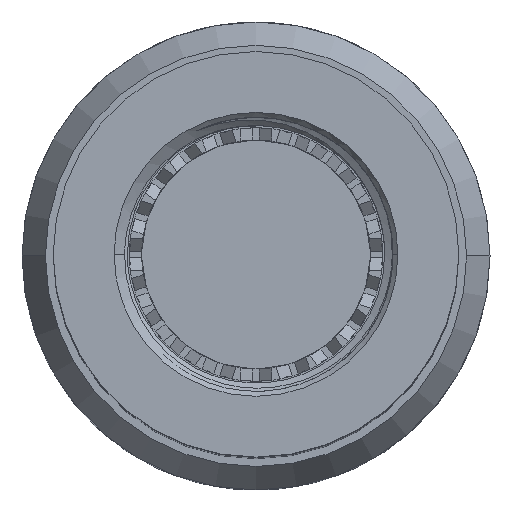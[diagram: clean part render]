
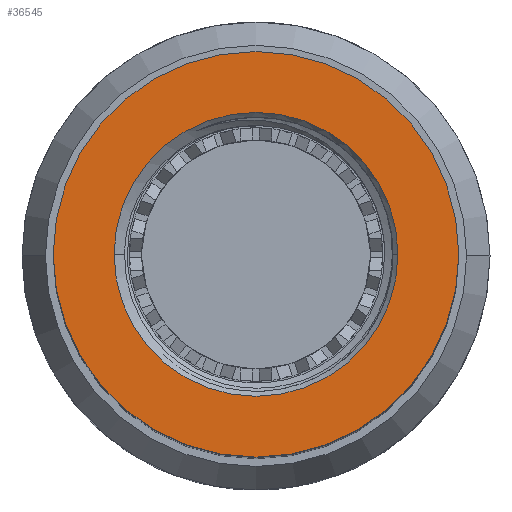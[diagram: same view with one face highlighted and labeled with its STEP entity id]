
A CAD part, top view. The second image highlights one B-rep face of the part: STEP entity #36545.
In plain terms, the highlighted planar face has unit normal (0, 0, 1).
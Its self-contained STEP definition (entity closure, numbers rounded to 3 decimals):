
#1039 = CARTESIAN_POINT ( 'NONE',  ( 0., 0., 5.664 ) ) ;
#1129 = CARTESIAN_POINT ( 'NONE',  ( 0., 0., 5.664 ) ) ;
#2233 = DIRECTION ( 'NONE',  ( 1., 0., 0. ) ) ;
#4090 = AXIS2_PLACEMENT_3D ( 'NONE', #1129, #46799, #10147 ) ;
#4928 = DIRECTION ( 'NONE',  ( 0., 0., -1. ) ) ;
#4938 = VERTEX_POINT ( 'NONE', #11486 ) ;
#5456 = DIRECTION ( 'NONE',  ( -1., 0., 0. ) ) ;
#5727 = AXIS2_PLACEMENT_3D ( 'NONE', #1039, #15153, #2233 ) ;
#7429 = CARTESIAN_POINT ( 'NONE',  ( -9.246, 0., 5.664 ) ) ;
#9196 = EDGE_CURVE ( 'NONE', #4938, #34971, #45339, .T. ) ;
#9236 = EDGE_LOOP ( 'NONE', ( #20604, #54961 ) ) ;
#10147 = DIRECTION ( 'NONE',  ( 1., 0., 0. ) ) ;
#11486 = CARTESIAN_POINT ( 'NONE',  ( -13.208, 0., 5.664 ) ) ;
#11896 = CARTESIAN_POINT ( 'NONE',  ( 0., 0., 5.664 ) ) ;
#12966 = EDGE_CURVE ( 'NONE', #34971, #4938, #36556, .T. ) ;
#14240 = DIRECTION ( 'NONE',  ( 1., 0., 0. ) ) ;
#15153 = DIRECTION ( 'NONE',  ( 0., 0., -1. ) ) ;
#16744 = ORIENTED_EDGE ( 'NONE', *, *, #28366, .T. ) ;
#17095 = AXIS2_PLACEMENT_3D ( 'NONE', #54211, #31322, #5456 ) ;
#20604 = ORIENTED_EDGE ( 'NONE', *, *, #12966, .F. ) ;
#22248 = CARTESIAN_POINT ( 'NONE',  ( 13.208, 0., 5.664 ) ) ;
#25734 = DIRECTION ( 'NONE',  ( 0., 0., -1. ) ) ;
#27150 = ORIENTED_EDGE ( 'NONE', *, *, #40733, .T. ) ;
#28366 = EDGE_CURVE ( 'NONE', #28496, #54376, #47956, .T. ) ;
#28496 = VERTEX_POINT ( 'NONE', #7429 ) ;
#31322 = DIRECTION ( 'NONE',  ( 0., 0., 1. ) ) ;
#33013 = DIRECTION ( 'NONE',  ( 1., 0., 0. ) ) ;
#34971 = VERTEX_POINT ( 'NONE', #22248 ) ;
#35826 = PLANE ( 'NONE',  #17095 ) ;
#36545 = ADVANCED_FACE ( 'NONE', ( #40333, #58414 ), #35826, .T. ) ;
#36556 = CIRCLE ( 'NONE', #58663, 13.208 ) ;
#38436 = EDGE_LOOP ( 'NONE', ( #27150, #16744 ) ) ;
#40333 = FACE_BOUND ( 'NONE', #38436, .T. ) ;
#40733 = EDGE_CURVE ( 'NONE', #54376, #28496, #56615, .T. ) ;
#44572 = CARTESIAN_POINT ( 'NONE',  ( 9.246, 0., 5.664 ) ) ;
#45339 = CIRCLE ( 'NONE', #4090, 13.208 ) ;
#46088 = CARTESIAN_POINT ( 'NONE',  ( 0., 0., 5.664 ) ) ;
#46799 = DIRECTION ( 'NONE',  ( 0., 0., -1. ) ) ;
#47956 = CIRCLE ( 'NONE', #52783, 9.246 ) ;
#52783 = AXIS2_PLACEMENT_3D ( 'NONE', #11896, #25734, #33013 ) ;
#54211 = CARTESIAN_POINT ( 'NONE',  ( 13.208, 0., 5.664 ) ) ;
#54376 = VERTEX_POINT ( 'NONE', #44572 ) ;
#54961 = ORIENTED_EDGE ( 'NONE', *, *, #9196, .F. ) ;
#56615 = CIRCLE ( 'NONE', #5727, 9.246 ) ;
#58414 = FACE_OUTER_BOUND ( 'NONE', #9236, .T. ) ;
#58663 = AXIS2_PLACEMENT_3D ( 'NONE', #46088, #4928, #14240 ) ;
